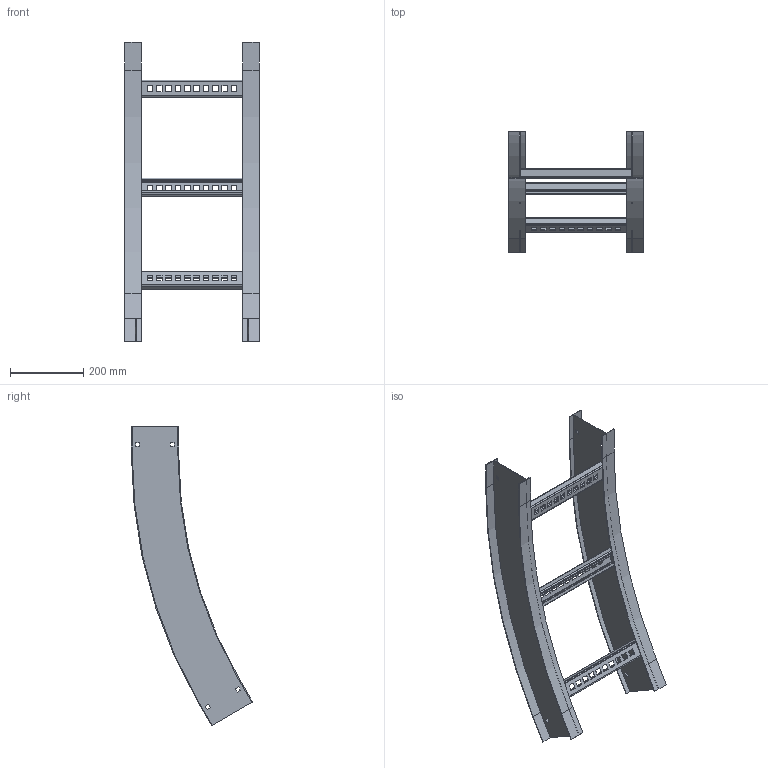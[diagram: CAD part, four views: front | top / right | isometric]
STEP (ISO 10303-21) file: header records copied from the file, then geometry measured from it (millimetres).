
FILE_DESCRIPTION((''),'2;1');
FILE_NAME('AHF512LVO3048_ASM','2010-02-01T',('erouzier'),(''),'PRO/ENGINEER BY PARAMETRIC TECHNOLOGY CORPORATION, 2008510','PRO/ENGINEER BY PARAMETRIC TECHNOLOGY CORPORATION, 2008510','');
FILE_SCHEMA(('CONFIG_CONTROL_DESIGN'));
Length unit declared in the file: inch
Products named in the file (3): CDS001658_5_30_48; CDS002159L12-P; AHF512LVO3048_ASM
Assembly tree (5 placements, depth 2):
  AHF512LVO3048_ASM
    CDS001658_5_30_48  x2
    CDS002159L12-P  x3
Bounding box: 366.01 x 330.47 x 816.31 mm (x, y, z)
Volume: 851224 mm3; surface area: 916498.9 mm2
Topology: 5 solids, 5 shells, 414 faces, 1212 edges, 808 vertices
Faces by surface type: plane 249, cylinder 165
Entity records: 5216 total; most frequent: CARTESIAN_POINT 900, ORIENTED_EDGE 888, DIRECTION 878, EDGE_CURVE 444, VECTOR 330, LINE 330, VERTEX_POINT 296, AXIS2_PLACEMENT_3D 274
